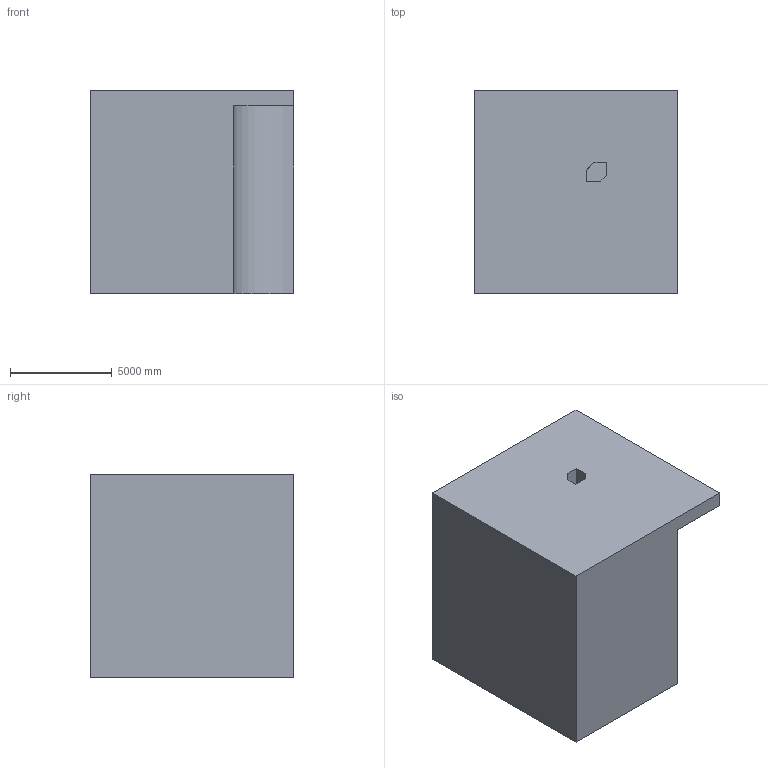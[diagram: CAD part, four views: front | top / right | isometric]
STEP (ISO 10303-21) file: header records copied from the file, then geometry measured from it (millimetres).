
FILE_DESCRIPTION (( 'STEP AP203' ), '1' );
FILE_NAME ('111.STEP', '2022-09-05T15:34:04', ( 'user' ), ( '' ), 'SwSTEP 2.0', 'SolidWorks 2021', '' );
FILE_SCHEMA (( 'CONFIG_CONTROL_DESIGN' ));
Length unit declared in the file: centimetre
Products named in the file (1): 111
Bounding box: 10000 x 10000 x 10000 mm (x, y, z)
Volume: 930786809927.1 mm3; surface area: 614992055.6 mm2
Topology: 1 solids, 1 shells, 15 faces, 36 edges, 24 vertices
Faces by surface type: plane 14, cylinder 1
Entity records: 509 total; most frequent: CARTESIAN_POINT 76, ORIENTED_EDGE 72, DIRECTION 70, EDGE_CURVE 36, VECTOR 34, LINE 34, VERTEX_POINT 24, AXIS2_PLACEMENT_3D 18
